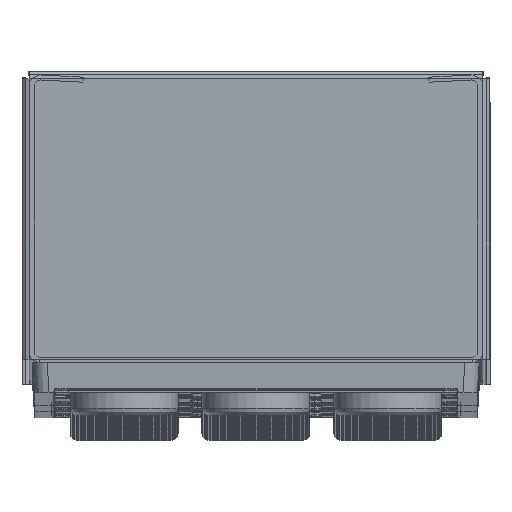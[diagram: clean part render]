
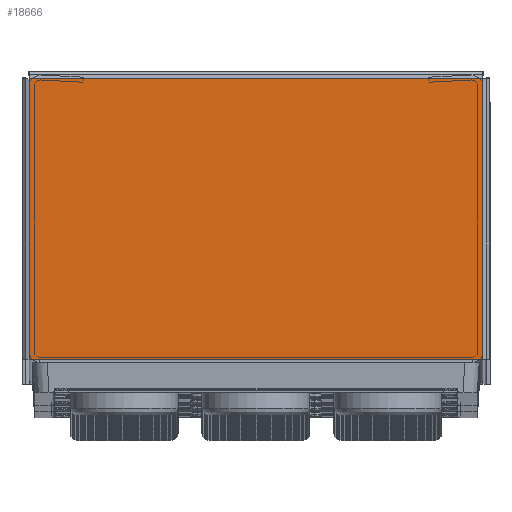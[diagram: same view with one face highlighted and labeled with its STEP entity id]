
A CAD part, top view. The second image highlights one B-rep face of the part: STEP entity #18666.
In plain terms, the highlighted planar face has unit normal (0, 0, 1).
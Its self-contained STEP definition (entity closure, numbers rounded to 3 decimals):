
#3250=FACE_OUTER_BOUND('',#4629,.T.);
#4629=EDGE_LOOP('',(#14912,#14913,#14914,#14915));
#6180=LINE('',#36270,#7045);
#6190=LINE('',#36303,#7055);
#6208=LINE('',#36346,#7073);
#6225=LINE('',#36384,#7090);
#7045=VECTOR('',#25807,10.);
#7055=VECTOR('',#25841,10.);
#7073=VECTOR('',#25887,10.);
#7090=VECTOR('',#25930,10.);
#8380=VERTEX_POINT('',#36267);
#8381=VERTEX_POINT('',#36269);
#8384=VERTEX_POINT('',#36301);
#8395=VERTEX_POINT('',#36345);
#10653=EDGE_CURVE('',#8381,#8380,#6180,.T.);
#10667=EDGE_CURVE('',#8380,#8384,#6190,.T.);
#10689=EDGE_CURVE('',#8395,#8381,#6208,.T.);
#10709=EDGE_CURVE('',#8395,#8384,#6225,.T.);
#14912=ORIENTED_EDGE('',*,*,#10653,.T.);
#14913=ORIENTED_EDGE('',*,*,#10667,.T.);
#14914=ORIENTED_EDGE('',*,*,#10709,.F.);
#14915=ORIENTED_EDGE('',*,*,#10689,.T.);
#17800=PLANE('',#20846);
#18666=ADVANCED_FACE('',(#3250),#17800,.T.);
#20846=AXIS2_PLACEMENT_3D('',#36390,#25934,#25935);
#25807=DIRECTION('',(-1.,0.,0.));
#25841=DIRECTION('',(0.,-1.,0.));
#25887=DIRECTION('',(0.,1.,0.));
#25930=DIRECTION('',(-1.,0.,0.));
#25934=DIRECTION('center_axis',(0.,0.,
1.));
#25935=DIRECTION('ref_axis',(1.,0.,0.));
#36267=CARTESIAN_POINT('',(-31.5,39.419,1000.5));
#36269=CARTESIAN_POINT('',(31.5,39.419,1000.5));
#36270=CARTESIAN_POINT('',(15.75,39.419,1000.5));
#36301=CARTESIAN_POINT('',(-31.5,0.419,1000.5));
#36303=CARTESIAN_POINT('',(-31.5,29.919,1000.5));
#36345=CARTESIAN_POINT('',(31.5,0.419,1000.5));
#36346=CARTESIAN_POINT('',(31.5,10.419,1000.5));
#36384=CARTESIAN_POINT('',(32.5,0.419,1000.5));
#36390=CARTESIAN_POINT('Origin',(0.,20.419,
1000.5));
